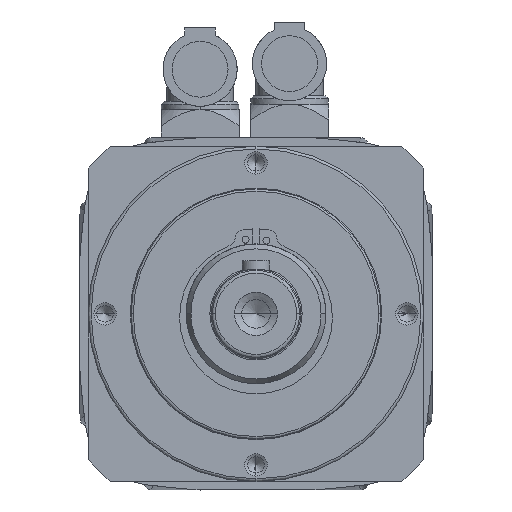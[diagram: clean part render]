
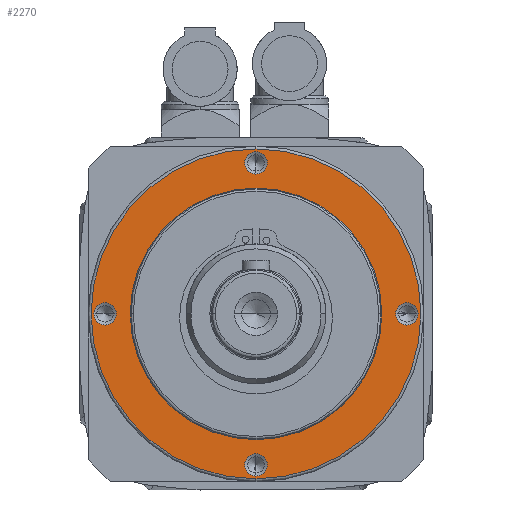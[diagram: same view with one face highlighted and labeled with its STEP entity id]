
A CAD part, left-side view. The second image highlights one B-rep face of the part: STEP entity #2270.
In plain terms, the highlighted planar face has unit normal (-1, 0, 0).
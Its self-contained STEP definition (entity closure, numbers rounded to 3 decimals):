
#2270=ADVANCED_FACE('',(#4908,#4909,#4910,#4911,#4912,#4913),#4914,.T.);
#2832=EDGE_CURVE('',#5745,#5746,#5747,.T.);
#2834=EDGE_CURVE('',#5746,#5745,#5749,.T.);
#4908=FACE_BOUND('',#15252,.T.);
#4909=FACE_BOUND('',#15253,.T.);
#4910=FACE_BOUND('',#15254,.T.);
#4911=FACE_BOUND('',#15255,.T.);
#4912=FACE_BOUND('',#15256,.T.);
#4913=FACE_OUTER_BOUND('',#15257,.T.);
#4914=PLANE('',#15258);
#5745=VERTEX_POINT('',#16348);
#5746=VERTEX_POINT('',#16349);
#5747=CIRCLE('',#16350,45.0);
#5749=CIRCLE('',#16353,45.0);
#15252=EDGE_LOOP('',(#22061,#22062));
#15253=EDGE_LOOP('',(#22063,#22064));
#15254=EDGE_LOOP('',(#22065,#22066));
#15255=EDGE_LOOP('',(#22067,#22068));
#15256=EDGE_LOOP('',(#22069,#22070));
#15257=EDGE_LOOP('',(#22071,#22072));
#15258=AXIS2_PLACEMENT_3D('',#22073,#22074,#22075);
#16348=CARTESIAN_POINT('',(-140.8,-45.0,0.));
#16349=CARTESIAN_POINT('',(-140.8,45.0,0.));
#16350=AXIS2_PLACEMENT_3D('',#23961,#23962,#23963);
#16353=AXIS2_PLACEMENT_3D('',#23964,#23965,#23966);
#22061=ORIENTED_EDGE('',*,*,#2832,.T.);
#22062=ORIENTED_EDGE('',*,*,#2834,.T.);
#22063=ORIENTED_EDGE('',*,*,#24281,.T.);
#22064=ORIENTED_EDGE('',*,*,#26407,.T.);
#22065=ORIENTED_EDGE('',*,*,#24435,.T.);
#22066=ORIENTED_EDGE('',*,*,#26408,.T.);
#22067=ORIENTED_EDGE('',*,*,#24589,.T.);
#22068=ORIENTED_EDGE('',*,*,#26409,.T.);
#22069=ORIENTED_EDGE('',*,*,#24743,.T.);
#22070=ORIENTED_EDGE('',*,*,#26410,.T.);
#22071=ORIENTED_EDGE('',*,*,#26405,.F.);
#22072=ORIENTED_EDGE('',*,*,#24749,.F.);
#22073=CARTESIAN_POINT('',(-140.8,0.0,29.5));
#22074=DIRECTION('',(-1.0,-0.0,0.));
#22075=DIRECTION('',(0.,0.0,-1.0));
#23961=CARTESIAN_POINT('',(-140.8,0.0,0.0));
#23962=DIRECTION('',(1.0,-0.0,0.));
#23963=DIRECTION('',(0.0,1.0,0.0));
#23964=CARTESIAN_POINT('',(-140.8,0.0,0.0));
#23965=DIRECTION('',(1.0,-0.0,0.));
#23966=DIRECTION('',(0.0,1.0,0.0));
#24281=EDGE_CURVE('',#27056,#27058,#27060,.T.);
#24435=EDGE_CURVE('',#27289,#27291,#27293,.T.);
#24589=EDGE_CURVE('',#27522,#27524,#27526,.T.);
#24743=EDGE_CURVE('',#27755,#27757,#27759,.T.);
#24749=EDGE_CURVE('',#27764,#27767,#27768,.T.);
#26405=EDGE_CURVE('',#27767,#27764,#30172,.T.);
#26407=EDGE_CURVE('',#27058,#27056,#30174,.T.);
#26408=EDGE_CURVE('',#27291,#27289,#30175,.T.);
#26409=EDGE_CURVE('',#27524,#27522,#30176,.T.);
#26410=EDGE_CURVE('',#27757,#27755,#30177,.T.);
#27056=VERTEX_POINT('',#30924);
#27058=VERTEX_POINT('',#30927);
#27060=CIRCLE('',#30930,4.);
#27289=VERTEX_POINT('',#31233);
#27291=VERTEX_POINT('',#31236);
#27293=CIRCLE('',#31239,4.);
#27522=VERTEX_POINT('',#31542);
#27524=VERTEX_POINT('',#31545);
#27526=CIRCLE('',#31548,4.);
#27755=VERTEX_POINT('',#31851);
#27757=VERTEX_POINT('',#31854);
#27759=CIRCLE('',#31857,4.);
#27764=VERTEX_POINT('',#31864);
#27767=VERTEX_POINT('',#31867);
#27768=CIRCLE('',#31868,59.);
#30172=CIRCLE('',#37492,59.);
#30174=CIRCLE('',#37494,4.);
#30175=CIRCLE('',#37495,4.);
#30176=CIRCLE('',#37496,4.);
#30177=CIRCLE('',#37497,4.);
#30924=CARTESIAN_POINT('',(-140.8,0.0,58.0));
#30927=CARTESIAN_POINT('',(-140.8,0.,50.));
#30930=AXIS2_PLACEMENT_3D('',#38156,#38157,#38158);
#31233=CARTESIAN_POINT('',(-140.8,-58.0,0.0));
#31236=CARTESIAN_POINT('',(-140.8,-50.0,0.));
#31239=AXIS2_PLACEMENT_3D('',#38352,#38353,#38354);
#31542=CARTESIAN_POINT('',(-140.8,0.0,-58.0));
#31545=CARTESIAN_POINT('',(-140.8,0.,-50.));
#31548=AXIS2_PLACEMENT_3D('',#38548,#38549,#38550);
#31851=CARTESIAN_POINT('',(-140.8,58.0,0.0));
#31854=CARTESIAN_POINT('',(-140.8,50.0,0.));
#31857=AXIS2_PLACEMENT_3D('',#38744,#38745,#38746);
#31864=CARTESIAN_POINT('',(-140.8,0.,-59.));
#31867=CARTESIAN_POINT('',(-140.8,0.0,59.));
#31868=AXIS2_PLACEMENT_3D('',#38752,#38753,#38754);
#37492=AXIS2_PLACEMENT_3D('',#40499,#40500,#40501);
#37494=AXIS2_PLACEMENT_3D('',#40502,#40503,#40504);
#37495=AXIS2_PLACEMENT_3D('',#40505,#40506,#40507);
#37496=AXIS2_PLACEMENT_3D('',#40508,#40509,#40510);
#37497=AXIS2_PLACEMENT_3D('',#40511,#40512,#40513);
#38156=CARTESIAN_POINT('',(-140.8,0.,54.));
#38157=DIRECTION('',(1.0,0.0,0.));
#38158=DIRECTION('',(0.,0.,1.0));
#38352=CARTESIAN_POINT('',(-140.8,-54.0,0.));
#38353=DIRECTION('',(1.0,0.,0.));
#38354=DIRECTION('',(0.,-1.0,0.));
#38548=CARTESIAN_POINT('',(-140.8,0.0,-54.));
#38549=DIRECTION('',(1.0,0.0,0.));
#38550=DIRECTION('',(0.,0.0,-1.0));
#38744=CARTESIAN_POINT('',(-140.8,54.0,0.));
#38745=DIRECTION('',(1.0,0.0,0.));
#38746=DIRECTION('',(0.,1.0,0.));
#38752=CARTESIAN_POINT('',(-140.8,0.0,0.0));
#38753=DIRECTION('',(1.0,0.0,-0.0));
#38754=DIRECTION('',(0.0,0.0,1.0));
#40499=CARTESIAN_POINT('',(-140.8,0.0,0.0));
#40500=DIRECTION('',(1.0,0.0,-0.0));
#40501=DIRECTION('',(0.0,0.0,1.0));
#40502=CARTESIAN_POINT('',(-140.8,0.,54.));
#40503=DIRECTION('',(1.0,0.0,0.));
#40504=DIRECTION('',(0.,0.,1.0));
#40505=CARTESIAN_POINT('',(-140.8,-54.0,0.));
#40506=DIRECTION('',(1.0,0.,0.));
#40507=DIRECTION('',(0.,-1.0,0.));
#40508=CARTESIAN_POINT('',(-140.8,0.0,-54.));
#40509=DIRECTION('',(1.0,0.0,0.));
#40510=DIRECTION('',(0.,0.0,-1.0));
#40511=CARTESIAN_POINT('',(-140.8,54.0,0.));
#40512=DIRECTION('',(1.0,0.0,0.));
#40513=DIRECTION('',(0.,1.0,0.));
